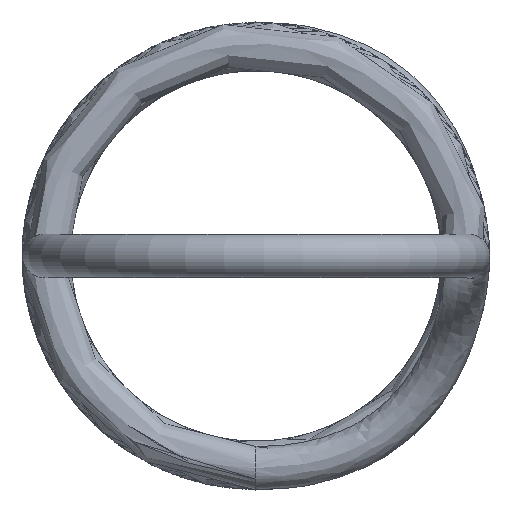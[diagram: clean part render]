
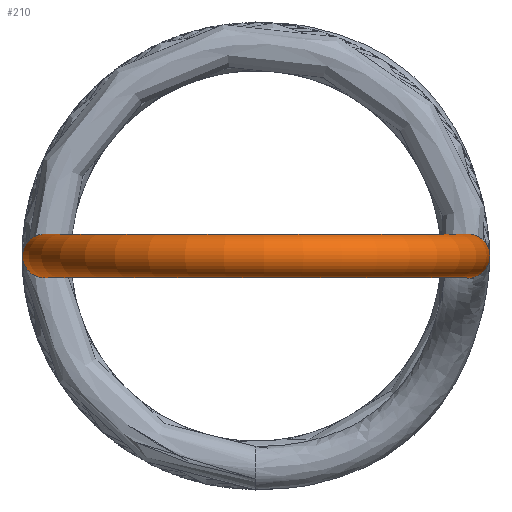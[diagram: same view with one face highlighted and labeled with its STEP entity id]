
A CAD part, front view. The second image highlights one B-rep face of the part: STEP entity #210.
In plain terms, the highlighted toroidal (fillet/blend) face has major radius 13.6 mm and minor radius 1.4 mm.
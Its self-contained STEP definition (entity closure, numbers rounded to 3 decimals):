
#15=TOROIDAL_SURFACE('',#248,13.6,1.4);
#22=CIRCLE('',#244,1.4);
#23=CIRCLE('',#245,1.4);
#24=CIRCLE('',#247,1.4);
#25=CIRCLE('',#249,12.2);
#40=FACE_OUTER_BOUND('',#51,.T.);
#51=EDGE_LOOP('',(#150,#151,#152,#153,#154));
#87=VERTEX_POINT('',#550);
#88=VERTEX_POINT('',#561);
#91=VERTEX_POINT('',#626);
#110=EDGE_CURVE('',#88,#87,#22,.T.);
#111=EDGE_CURVE('',#87,#88,#23,.T.);
#114=EDGE_CURVE('',#91,#91,#24,.T.);
#115=EDGE_CURVE('',#91,#88,#25,.T.);
#150=ORIENTED_EDGE('',*,*,#114,.F.);
#151=ORIENTED_EDGE('',*,*,#115,.T.);
#152=ORIENTED_EDGE('',*,*,#110,.T.);
#153=ORIENTED_EDGE('',*,*,#111,.T.);
#154=ORIENTED_EDGE('',*,*,#115,.F.);
#210=ADVANCED_FACE('',(#40),#15,.T.);
#244=AXIS2_PLACEMENT_3D('',#562,#270,#271);
#245=AXIS2_PLACEMENT_3D('',#563,#272,#273);
#247=AXIS2_PLACEMENT_3D('',#627,#276,#277);
#248=AXIS2_PLACEMENT_3D('',#628,#278,#279);
#249=AXIS2_PLACEMENT_3D('',#629,#280,#281);
#270=DIRECTION('center_axis',(0.,-1.,0.));
#271=DIRECTION('ref_axis',(-0.43,0.,-0.903));
#272=DIRECTION('center_axis',(0.,-1.,0.));
#273=DIRECTION('ref_axis',(-0.43,0.,-0.903));
#276=DIRECTION('center_axis',(0.103,0.995,0.));
#277=DIRECTION('ref_axis',(0.427,-0.044,-0.903));
#278=DIRECTION('center_axis',(0.,0.,
-1.));
#279=DIRECTION('ref_axis',(-0.051,-0.999,0.));
#280=DIRECTION('center_axis',(0.,0.,
1.));
#281=DIRECTION('ref_axis',(-0.051,-0.999,0.));
#550=CARTESIAN_POINT('',(12.999,-116.,-1.264));
#561=CARTESIAN_POINT('',(12.2,-116.,0.));
#562=CARTESIAN_POINT('Origin',(13.6,-116.,0.));
#563=CARTESIAN_POINT('Origin',(13.6,-116.,0.));
#626=CARTESIAN_POINT('',(-12.135,-114.746,0.));
#627=CARTESIAN_POINT('Origin',(-13.528,-114.602,0.));
#628=CARTESIAN_POINT('Origin',(0.,-116.,0.));
#629=CARTESIAN_POINT('Origin',(0.,-116.,0.));
